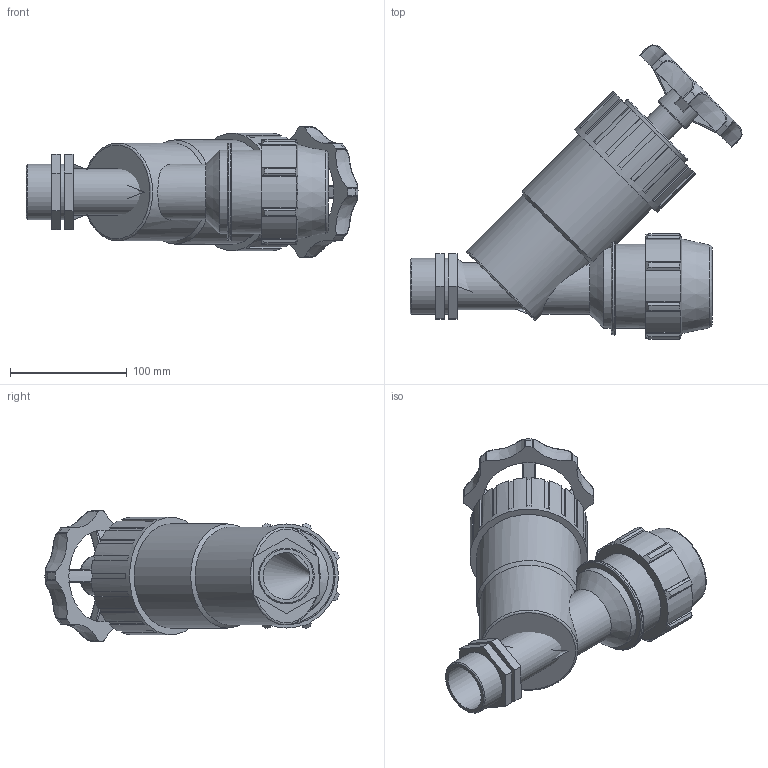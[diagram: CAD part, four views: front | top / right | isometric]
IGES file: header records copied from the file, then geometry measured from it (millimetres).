
Global section: file name: 03948500_039485050A.ipt; native system: Autodesk Inventor 2015; preprocessor: unknown; author: KIM; date: 20180916.173736; units: millimetre
Bounding box: 284.64 x 252.1 x 111.77 mm (x, y, z)
Volume: 1637386.1 mm3; surface area: 178061.5 mm2
Topology: 1 solids, 1 shells, 272 faces, 762 edges, 501 vertices
Faces by surface type: plane 130, cylinder 73, revolution 28, bspline 24, cone 17
Full cylindrical faces by diameter (mm): 26.827 x1, 33.534 x1, 47.803 x3, 72 x1, 73.775 x1, 83.835 x1, 89.424 x1, 100.602 x1
